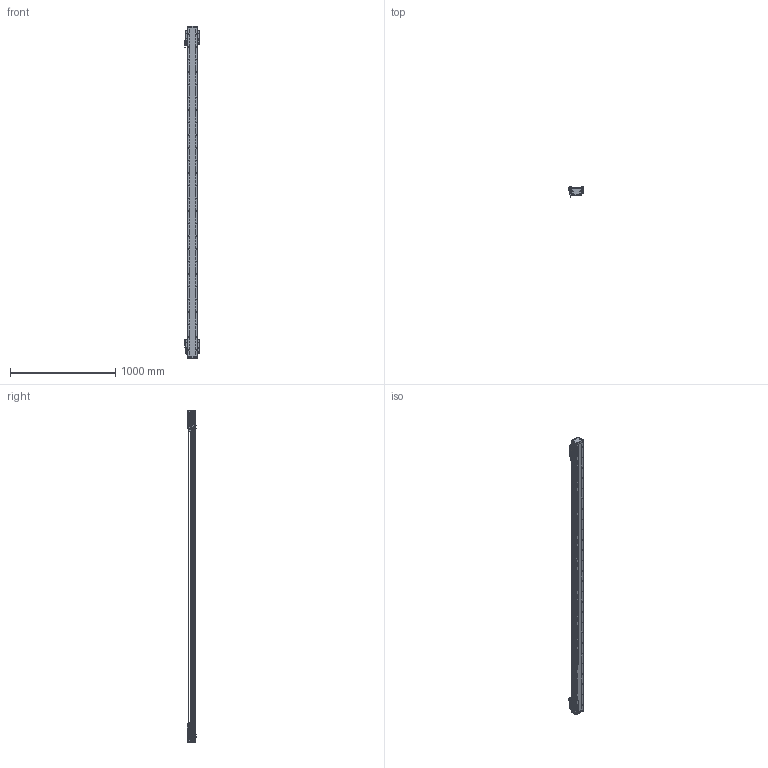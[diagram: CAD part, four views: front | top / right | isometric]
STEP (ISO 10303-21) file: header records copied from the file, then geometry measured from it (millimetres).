
FILE_DESCRIPTION (( 'STEP AP203' ), '1' );
FILE_NAME ('DA-B95-2-B15-T2780-C010-0.2 直线电机.STEP', '2023-05-06T06:42:47', ( '微软用户' ), ( '微软中国' ), 'SwSTEP 2.0', 'SolidWorks 2019', '' );
FILE_SCHEMA (( 'CONFIG_CONTROL_DESIGN' ));
Length unit declared in the file: millimetre
Products named in the file (34): 葩璃 BKM015-W060-C1-TP-DA-0.2^DA-A95-B15-T-C010-0.2-N 眻盄萇儂; 66245-BU95-V 幗紩賑怢; 复件 DKW-GYP-ZJ-00 中间光电感应片^DA-A95-B15-T-C010-0.2-N 直线电机; IU-BU95-L 菁釱絳寢; 复件 纯铜油杯 6x6mm^66245-BU95-V 滚珠滑台; 葩璃 PM-Y45^DA-A95-B15-T-C010-0.2-N 眻盄萇儂; 复件 DA95-B15-YB-A-00 压板A^66245-BU95-V 滚珠滑台; 复件 DA95-B15-YB-B-00 压板B^66245-BU95-V 滚珠滑台; DA-A95-GYP-00 光电感应片^DA-A95-B15-T-C010-0.2-N 直线电机; 葩璃 BKMA01-W060-TRL^DA-A95-B15-T-C010-0.2-N 眻盄萇儂; 葩璃 DA95-GT-T-00^IU-BU95-L 菁釱絳寢_DA95; DA95-HXJ-00 缓冲橡胶^DA-A95-B15-T-C010-0.2-N 直线电机; 复件 DKW-KGZ-ZJ-00 中间光电开关支架^DA-A95-B15-T-C010-0.2-N 直线电机; 66245-BU95-V-00 珨极趙賑雄怢啣; 复件 DKW-HXJ-JY-00 缓冲橡胶^DA-A95-B15-T-C010-0.2-N 直线电机; 葩璃 DA95-B15-DP-A-00 菜えA^66245-BU95-V 幗紩賑怢; DA-B95-2-B15-T2780-C010-0.2 眻盄萇儂; 复件 DA95-MFP-01 密封片^66245-BU95-V 滚珠滑台; 复件 复件 18252-0001-003-00 钢带拉块^DA-A95-B15-T-C010-0.2-N 直线电机; 复件 66245-BU95-HT-V-01 滑动台板^66245-BU95-V-00 一体化滑动台板; B15 XD-U-02L ｴﾅﾕ､ｳﾟ^DA-A95-B15-T-C010-0.2-N ﾖｱﾏﾟｵ扈銈XD-U-02L; 复件 DA95-DK-00 挡块^66245-BU95-V 滚珠滑台; 复件 DA95-HK-GT-00 滑块钢轨^66245-BU95-V-00 一体化滑动台板; 复件 六角薄螺母 M3^DA-A95-B15-T-C010-0.2-N 直线电机_GB_FASTENER_NUT_STNAB M3-C; 复件 复件 18252-0001-004-00 钢带端盖^DA-A95-B15-T-C010-0.2-N 直线电机; LMDK-2-R001-V5-L02-C1-F00，0.2M 读数头^DA-A95-B15-T-C010-0.2-N 直线电机_DMA-010-0.2; 复件 DA95-DB-00  挡板^66245-BU95-V 滚珠滑台; PM-T45 光电开关^DA-A95-B15-T-C010-0.2-N 直线电机; 葩璃 DA95-B15-DP--B-00 菜えB^66245-BU95-V 幗紩賑怢; 复件 DA95-B15 钢带盖板^DA-A95-B15-T-C010-0.2-N 直线电机; IU-BU95-L-00 菁釱_L3120; 复件 复件 18252-0001-002-00 钢带垫块^DA-A95-B15-T-C010-0.2-N 直线电机
Assembly tree (80 placements, depth 4):
  DA-B95-2-B15-T2780-C010-0.2 眻盄萇儂
    IU-BU95-L 菁釱絳寢
      IU-BU95-L-00 菁釱_L3120
      葩璃 DA95-GT-T-00^IU-BU95-L 菁釱絳寢_DA95  x2
    66245-BU95-V 幗紩賑怢
      66245-BU95-V-00 珨极趙賑雄怢啣
        复件 66245-BU95-HT-V-01 滑动台板^66245-BU95-V-00 一体化滑动台板
        复件 DA95-HK-GT-00 滑块钢轨^66245-BU95-V-00 一体化滑动台板  x2
      葩璃 DA95-B15-DP-A-00 菜えA^66245-BU95-V 幗紩賑怢
      复件 DA95-B15-YB-A-00 压板A^66245-BU95-V 滚珠滑台
      复件 DA95-B15-YB-B-00 压板B^66245-BU95-V 滚珠滑台
      复件 DA95-DB-00  挡板^66245-BU95-V 滚珠滑台  x4
      复件 DA95-DK-00 挡块^66245-BU95-V 滚珠滑台  x2
      复件 DA95-MFP-01 密封片^66245-BU95-V 滚珠滑台  x4
      复件 纯铜油杯 6x6mm^66245-BU95-V 滚珠滑台  x2
      葩璃 DA95-B15-DP--B-00 菜えB^66245-BU95-V 幗紩賑怢
    66245-BU95-V 幗紩賑怢
      66245-BU95-V-00 珨极趙賑雄怢啣
        复件 66245-BU95-HT-V-01 滑动台板^66245-BU95-V-00 一体化滑动台板
        复件 DA95-HK-GT-00 滑块钢轨^66245-BU95-V-00 一体化滑动台板  x2
      葩璃 DA95-B15-DP-A-00 菜えA^66245-BU95-V 幗紩賑怢
      复件 DA95-B15-YB-A-00 压板A^66245-BU95-V 滚珠滑台
      复件 DA95-B15-YB-B-00 压板B^66245-BU95-V 滚珠滑台
      复件 DA95-DB-00  挡板^66245-BU95-V 滚珠滑台  x4
      复件 DA95-DK-00 挡块^66245-BU95-V 滚珠滑台  x2
      复件 DA95-MFP-01 密封片^66245-BU95-V 滚珠滑台  x4
      复件 纯铜油杯 6x6mm^66245-BU95-V 滚珠滑台  x2
      葩璃 DA95-B15-DP--B-00 菜えB^66245-BU95-V 幗紩賑怢
    DA-A95-GYP-00 光电感应片^DA-A95-B15-T-C010-0.2-N 直线电机  x2
    LMDK-2-R001-V5-L02-C1-F00，0.2M 读数头^DA-A95-B15-T-C010-0.2-N 直线电机_DMA-010-0.2  x2
    复件 DKW-KGZ-ZJ-00 中间光电开关支架^DA-A95-B15-T-C010-0.2-N 直线电机
    葩璃 PM-Y45^DA-A95-B15-T-C010-0.2-N 眻盄萇儂
    复件 DKW-GYP-ZJ-00 中间光电感应片^DA-A95-B15-T-C010-0.2-N 直线电机
    葩璃 BKM015-W060-C1-TP-DA-0.2^DA-A95-B15-T-C010-0.2-N 眻盄萇儂  x2
    复件 DKW-HXJ-JY-00 缓冲橡胶^DA-A95-B15-T-C010-0.2-N 直线电机  x2
    PM-T45 光电开关^DA-A95-B15-T-C010-0.2-N 直线电机  x4
    B15 XD-U-02L ｴﾅﾕ､ｳﾟ^DA-A95-B15-T-C010-0.2-N ﾖｱﾏﾟｵ扈銈XD-U-02L
    复件 复件 18252-0001-003-00 钢带拉块^DA-A95-B15-T-C010-0.2-N 直线电机  x2
    复件 复件 18252-0001-002-00 钢带垫块^DA-A95-B15-T-C010-0.2-N 直线电机  x2
    复件 复件 18252-0001-004-00 钢带端盖^DA-A95-B15-T-C010-0.2-N 直线电机  x2
    复件 DA95-B15 钢带盖板^DA-A95-B15-T-C010-0.2-N 直线电机
    DA95-HXJ-00 缓冲橡胶^DA-A95-B15-T-C010-0.2-N 直线电机  x4
    葩璃 BKMA01-W060-TRL^DA-A95-B15-T-C010-0.2-N 眻盄萇儂
    复件 六角薄螺母 M3^DA-A95-B15-T-C010-0.2-N 直线电机_GB_FASTENER_NUT_STNAB M3-C  x6
Bounding box: 145.4 x 90.2 x 3156 mm (x, y, z)
Volume: 9955163.7 mm3; surface area: 3321831.3 mm2
Topology: 75 solids, 93 shells, 4464 faces, 12796 edges, 8143 vertices
Faces by surface type: cylinder 2357, plane 1575, cone 464, torus 64, sphere 4
Entity records: 114214 total; most frequent: CARTESIAN_POINT 30908, ORIENTED_EDGE 16950, DIRECTION 16170, EDGE_CURVE 8475, AXIS2_PLACEMENT_3D 6181, VERTEX_POINT 5545, LINE 3808, VECTOR 3808
